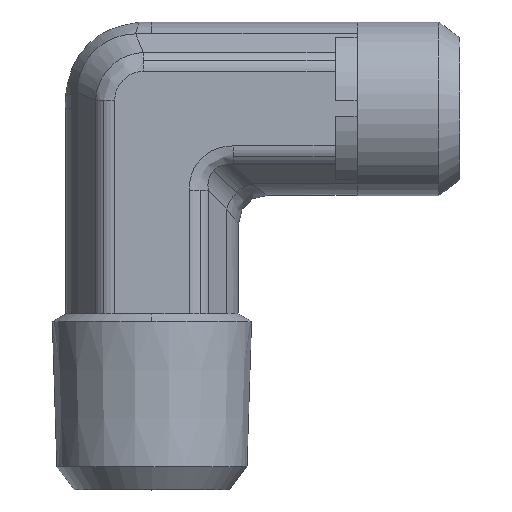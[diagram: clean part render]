
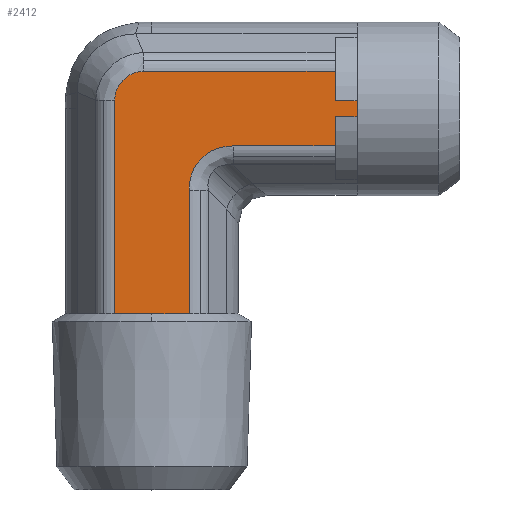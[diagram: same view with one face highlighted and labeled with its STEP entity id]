
A CAD part, top view. The second image highlights one B-rep face of the part: STEP entity #2412.
In plain terms, the highlighted planar face has unit normal (0, 0, 1) as drawn and (0, -1, 0) by its records, which use the part's own axes.
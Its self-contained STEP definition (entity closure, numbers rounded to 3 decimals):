
#361=CARTESIAN_POINT('',(1.071,-5.9,2.54));
#362=VERTEX_POINT('',#361);
#370=CARTESIAN_POINT('',(9.5,-5.9,2.54));
#371=VERTEX_POINT('',#370);
#372=CARTESIAN_POINT('',(1.071,-5.9,2.54));
#373=DIRECTION('',(1.0,0.0,0.0));
#374=VECTOR('',#373,8.429);
#375=LINE('',#372,#374);
#376=EDGE_CURVE('',#362,#371,#375,.T.);
#485=CARTESIAN_POINT('',(-7.04,-5.9,-0.585));
#486=VERTEX_POINT('',#485);
#494=CARTESIAN_POINT('',(-7.04,-5.9,12.5));
#495=VERTEX_POINT('',#494);
#496=CARTESIAN_POINT('',(-7.04,-5.9,-0.585));
#497=DIRECTION('',(0.0,0.0,1.0));
#498=VECTOR('',#497,13.085);
#499=LINE('',#496,#498);
#500=EDGE_CURVE('',#486,#495,#499,.T.);
#711=CARTESIAN_POINT('',(9.5,-5.9,0.));
#712=VERTEX_POINT('',#711);
#1880=CARTESIAN_POINT('',(-1.96,-5.9,12.5));
#1881=VERTEX_POINT('',#1880);
#1882=CARTESIAN_POINT('',(-3.956,-5.9,12.5));
#1883=VERTEX_POINT('',#1882);
#1884=CARTESIAN_POINT('',(-1.96,-5.9,12.5));
#1885=DIRECTION('',(-1.0,0.0,0.0));
#1886=VECTOR('',#1885,1.997);
#1887=LINE('',#1884,#1886);
#1888=EDGE_CURVE('',#1881,#1883,#1887,.T.);
#1939=CARTESIAN_POINT('',(-5.044,-5.9,12.5));
#1940=VERTEX_POINT('',#1939);
#1941=CARTESIAN_POINT('',(-5.044,-5.9,12.5));
#1942=DIRECTION('',(-1.0,0.0,0.0));
#1943=VECTOR('',#1942,1.997);
#1944=LINE('',#1941,#1943);
#1945=EDGE_CURVE('',#1940,#495,#1944,.T.);
#2044=CARTESIAN_POINT('',(-3.956,-5.9,14.0));
#2045=VERTEX_POINT('',#2044);
#2046=CARTESIAN_POINT('',(-3.956,-5.9,12.5));
#2047=DIRECTION('',(0.0,0.0,1.0));
#2048=VECTOR('',#2047,1.5);
#2049=LINE('',#2046,#2048);
#2050=EDGE_CURVE('',#1883,#2045,#2049,.T.);
#2085=CARTESIAN_POINT('',(-5.044,-5.9,14.0));
#2086=VERTEX_POINT('',#2085);
#2087=CARTESIAN_POINT('',(-5.044,-5.9,14.0));
#2088=DIRECTION('',(0.0,0.0,-1.0));
#2089=VECTOR('',#2088,1.5);
#2090=LINE('',#2087,#2089);
#2091=EDGE_CURVE('',#2086,#1940,#2090,.T.);
#2318=CARTESIAN_POINT('',(-4.5,-5.9,14.0));
#2319=VERTEX_POINT('',#2318);
#2320=CARTESIAN_POINT('',(-4.5,-5.9,14.0));
#2321=DIRECTION('',(-1.0,0.0,0.0));
#2322=VECTOR('',#2321,0.544);
#2323=LINE('',#2320,#2322);
#2324=EDGE_CURVE('',#2319,#2086,#2323,.T.);
#2342=CARTESIAN_POINT('',(-4.5,-5.9,-3.175));
#2343=DIRECTION('',(0.0,-1.0,0.0));
#2344=DIRECTION('',(0.0,0.0,-1.0));
#2345=AXIS2_PLACEMENT_3D('',#2342,#2343,#2344);
#2346=PLANE('',#2345);
#2347=ORIENTED_EDGE('',*,*,#2091,.T.);
#2348=ORIENTED_EDGE('',*,*,#1945,.T.);
#2349=ORIENTED_EDGE('',*,*,#500,.F.);
#2350=CARTESIAN_POINT('',(-5.085,-5.9,-2.54));
#2351=VERTEX_POINT('',#2350);
#2352=CARTESIAN_POINT('',(-7.04,-5.9,-0.585));
#2353=CARTESIAN_POINT('',(-7.04,-5.9,-0.712));
#2354=CARTESIAN_POINT('',(-7.027,-5.9,-0.841));
#2355=CARTESIAN_POINT('',(-6.961,-5.9,-1.168));
#2356=CARTESIAN_POINT('',(-6.889,-5.9,-1.36));
#2357=CARTESIAN_POINT('',(-6.626,-5.9,-1.825));
#2358=CARTESIAN_POINT('',(-6.394,-5.9,-2.068));
#2359=CARTESIAN_POINT('',(-5.806,-5.9,-2.436));
#2360=CARTESIAN_POINT('',(-5.446,-5.9,-2.54));
#2361=CARTESIAN_POINT('',(-5.085,-5.9,-2.54));
#2362=B_SPLINE_CURVE_WITH_KNOTS('',3,(#2352,#2353,#2354,#2355,#2356,#2357,#2358,#2359,#2360,#2361),.UNSPECIFIED.,.F.,.U.,(4,2,2,2,4),(-3.052,-2.67,-2.06,-1.083,0.0),.UNSPECIFIED.);
#2363=EDGE_CURVE('',#2351,#486,#2362,.F.);
#2364=ORIENTED_EDGE('',*,*,#2363,.F.);
#2365=CARTESIAN_POINT('',(9.5,-5.9,-2.54));
#2366=VERTEX_POINT('',#2365);
#2367=CARTESIAN_POINT('',(9.5,-5.9,-2.54));
#2368=DIRECTION('',(-1.0,0.0,0.0));
#2369=VECTOR('',#2368,14.585);
#2370=LINE('',#2367,#2369);
#2371=EDGE_CURVE('',#2366,#2351,#2370,.T.);
#2372=ORIENTED_EDGE('',*,*,#2371,.F.);
#2373=CARTESIAN_POINT('',(9.5,-5.9,-2.54));
#2374=DIRECTION('',(0.0,0.0,1.0));
#2375=VECTOR('',#2374,2.54);
#2376=LINE('',#2373,#2375);
#2377=EDGE_CURVE('',#2366,#712,#2376,.T.);
#2378=ORIENTED_EDGE('',*,*,#2377,.T.);
#2379=CARTESIAN_POINT('',(9.5,-5.9,0.));
#2380=DIRECTION('',(0.0,0.0,1.0));
#2381=VECTOR('',#2380,2.54);
#2382=LINE('',#2379,#2381);
#2383=EDGE_CURVE('',#712,#371,#2382,.T.);
#2384=ORIENTED_EDGE('',*,*,#2383,.T.);
#2385=ORIENTED_EDGE('',*,*,#376,.F.);
#2386=CARTESIAN_POINT('',(-1.96,-5.9,5.571));
#2387=VERTEX_POINT('',#2386);
#2388=CARTESIAN_POINT('',(2.082,-5.9,6.582));
#2389=DIRECTION('',(0.,-1.0,0.));
#2390=DIRECTION('',(-0.707,0.,-0.707));
#2391=AXIS2_PLACEMENT_3D('',#2388,#2389,#2390);
#2392=ELLIPSE('',#2391,4.518,3.5);
#2393=EDGE_CURVE('',#2387,#362,#2392,.T.);
#2394=ORIENTED_EDGE('',*,*,#2393,.F.);
#2395=CARTESIAN_POINT('',(-1.96,-5.9,12.5));
#2396=DIRECTION('',(0.0,0.0,-1.0));
#2397=VECTOR('',#2396,6.929);
#2398=LINE('',#2395,#2397);
#2399=EDGE_CURVE('',#1881,#2387,#2398,.T.);
#2400=ORIENTED_EDGE('',*,*,#2399,.F.);
#2401=ORIENTED_EDGE('',*,*,#1888,.T.);
#2402=ORIENTED_EDGE('',*,*,#2050,.T.);
#2403=CARTESIAN_POINT('',(-3.956,-5.9,14.0));
#2404=DIRECTION('',(-1.0,0.0,0.0));
#2405=VECTOR('',#2404,0.544);
#2406=LINE('',#2403,#2405);
#2407=EDGE_CURVE('',#2045,#2319,#2406,.T.);
#2408=ORIENTED_EDGE('',*,*,#2407,.T.);
#2409=ORIENTED_EDGE('',*,*,#2324,.T.);
#2410=EDGE_LOOP('',(#2347,#2348,#2349,#2364,#2372,#2378,#2384,#2385,#2394,#2400,#2401,#2402,#2408,#2409));
#2411=FACE_OUTER_BOUND('',#2410,.T.);
#2412=ADVANCED_FACE('',(#2411),#2346,.T.);
